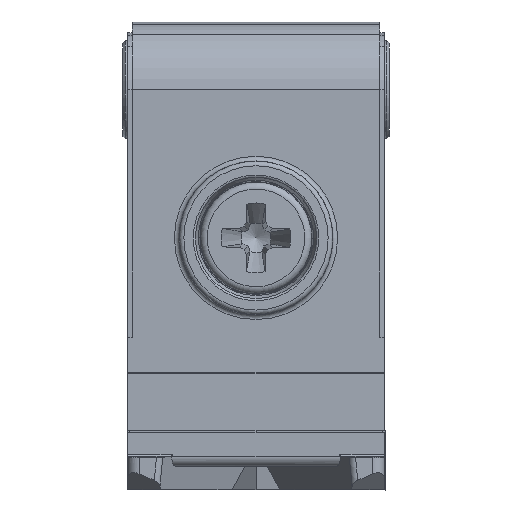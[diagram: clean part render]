
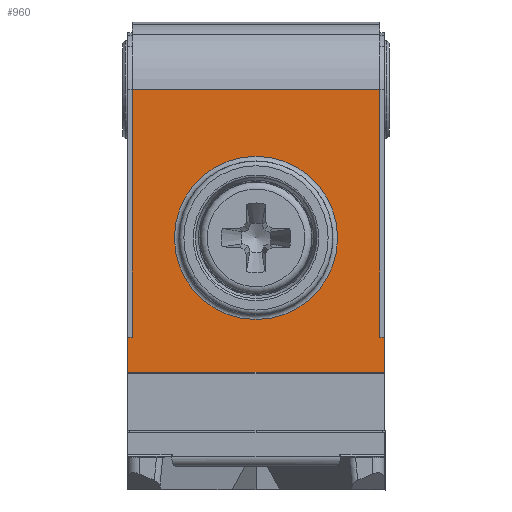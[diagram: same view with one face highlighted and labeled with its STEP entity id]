
A CAD part, front view. The second image highlights one B-rep face of the part: STEP entity #960.
In plain terms, the highlighted planar face has unit normal (0, -1, 0).
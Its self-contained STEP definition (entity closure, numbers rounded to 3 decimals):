
#820=FACE_BOUND('',#1888,.T.);
#821=FACE_BOUND('',#1889,.T.);
#960=ADVANCED_FACE('',(#820,#821),#1343,.F.);
#1343=PLANE('',#7361);
#1888=EDGE_LOOP('',(#2743));
#1889=EDGE_LOOP('',(#2744,#2745,#2746,#2747,#2748,#2749,#2750,#2751));
#2350=CIRCLE('',#7360,3.497);
#2743=ORIENTED_EDGE('',*,*,#5292,.T.);
#2744=ORIENTED_EDGE('',*,*,#5268,.T.);
#2745=ORIENTED_EDGE('',*,*,#5248,.F.);
#2746=ORIENTED_EDGE('',*,*,#5293,.T.);
#2747=ORIENTED_EDGE('',*,*,#5186,.T.);
#2748=ORIENTED_EDGE('',*,*,#5294,.F.);
#2749=ORIENTED_EDGE('',*,*,#5288,.F.);
#2750=ORIENTED_EDGE('',*,*,#5295,.F.);
#2751=ORIENTED_EDGE('',*,*,#5296,.F.);
#4522=VERTEX_POINT('',#9781);
#4523=VERTEX_POINT('',#9783);
#4583=VERTEX_POINT('',#9983);
#4584=VERTEX_POINT('',#9985);
#4600=VERTEX_POINT('',#10025);
#4617=VERTEX_POINT('',#10062);
#4618=VERTEX_POINT('',#10064);
#4621=VERTEX_POINT('',#10072);
#4622=VERTEX_POINT('',#10076);
#5186=EDGE_CURVE('',#4523,#4522,#6120,.T.);
#5248=EDGE_CURVE('',#4583,#4584,#6147,.T.);
#5268=EDGE_CURVE('',#4600,#4584,#6166,.T.);
#5288=EDGE_CURVE('',#4617,#4618,#6178,.T.);
#5292=EDGE_CURVE('',#4621,#4621,#2350,.T.);
#5293=EDGE_CURVE('',#4583,#4523,#6179,.T.);
#5294=EDGE_CURVE('',#4618,#4522,#6180,.T.);
#5295=EDGE_CURVE('',#4622,#4617,#6181,.T.);
#5296=EDGE_CURVE('',#4600,#4622,#6182,.T.);
#6120=LINE('',#9782,#6729);
#6147=LINE('',#9984,#6756);
#6166=LINE('',#10024,#6775);
#6178=LINE('',#10063,#6787);
#6179=LINE('',#10073,#6788);
#6180=LINE('',#10074,#6789);
#6181=LINE('',#10075,#6790);
#6182=LINE('',#10077,#6791);
#6729=VECTOR('',#7957,1.);
#6756=VECTOR('',#8004,1.);
#6775=VECTOR('',#8033,1.);
#6787=VECTOR('',#8063,1.);
#6788=VECTOR('',#8074,1.);
#6789=VECTOR('',#8075,1.);
#6790=VECTOR('',#8076,1.);
#6791=VECTOR('',#8077,1.);
#7360=AXIS2_PLACEMENT_3D('',#10071,#8072,#8073);
#7361=AXIS2_PLACEMENT_3D('',#10078,#8078,#8079);
#7957=DIRECTION('',(0.,0.,1.));
#8004=DIRECTION('',(0.,0.,-1.));
#8033=DIRECTION('',(1.,0.,0.));
#8063=DIRECTION('',(0.,0.,1.));
#8072=DIRECTION('',(0.,1.,0.));
#8073=DIRECTION('',(1.,0.,0.));
#8074=DIRECTION('',(-1.,0.,0.));
#8075=DIRECTION('',(1.,0.,0.));
#8076=DIRECTION('',(1.,0.,0.));
#8077=DIRECTION('',(0.,0.,1.));
#8078=DIRECTION('',(0.,1.,0.));
#8079=DIRECTION('',(1.,0.,0.));
#9781=CARTESIAN_POINT('',(7.5,-26.171,15.11));
#9782=CARTESIAN_POINT('',(7.5,-26.171,4.51));
#9783=CARTESIAN_POINT('',(7.5,-26.171,4.51));
#9983=CARTESIAN_POINT('',(7.7,-26.171,4.51));
#9984=CARTESIAN_POINT('',(7.7,-26.171,-1.09));
#9985=CARTESIAN_POINT('',(7.7,-26.171,3.01));
#10024=CARTESIAN_POINT('',(-46.805,-26.171,3.01));
#10025=CARTESIAN_POINT('',(-3.3,-26.171,3.01));
#10062=CARTESIAN_POINT('',(-3.1,-26.171,4.51));
#10063=CARTESIAN_POINT('',(-3.1,-26.171,4.51));
#10064=CARTESIAN_POINT('',(-3.1,-26.171,15.11));
#10071=CARTESIAN_POINT('',(2.2,-26.171,8.76));
#10072=CARTESIAN_POINT('',(5.697,-26.171,8.76));
#10073=CARTESIAN_POINT('',(7.5,-26.171,4.51));
#10074=CARTESIAN_POINT('',(-3.85,-26.171,15.11));
#10075=CARTESIAN_POINT('',(-3.1,-26.171,4.51));
#10076=CARTESIAN_POINT('',(-3.3,-26.171,4.51));
#10077=CARTESIAN_POINT('',(-3.3,-26.171,-1.09));
#10078=CARTESIAN_POINT('',(2.3,-26.171,17.41));
